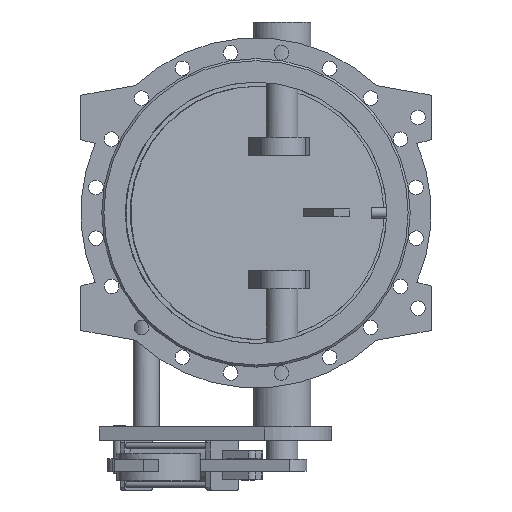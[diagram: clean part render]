
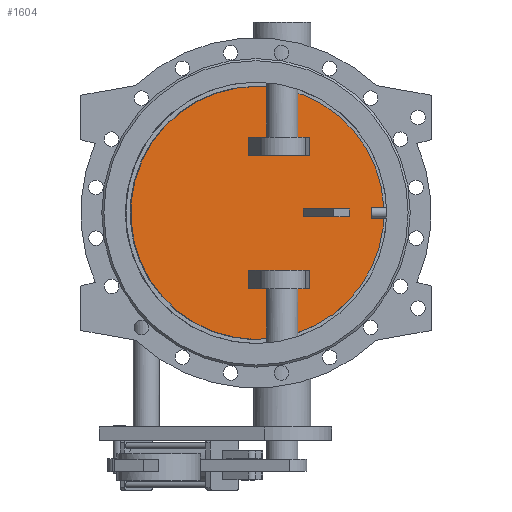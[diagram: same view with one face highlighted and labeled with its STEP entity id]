
A CAD part, front view. The second image highlights one B-rep face of the part: STEP entity #1604.
In plain terms, the highlighted planar face has unit normal (0.131, -0.991, 0).
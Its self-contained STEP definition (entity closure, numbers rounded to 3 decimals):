
#1604=ADVANCED_FACE('',(#3557,#3559,#3561,#3563),#3565,.T.);
#3557=FACE_BOUND('',#3558,.T.);
#3558=EDGE_LOOP('',(#4672));
#3559=FACE_BOUND('',#3560,.T.);
#3560=EDGE_LOOP('',(#4673,#4674,#4675,#4676));
#3561=FACE_BOUND('',#3562,.T.);
#3562=EDGE_LOOP('',(#4677,#4678,#4679,#4680));
#3563=FACE_BOUND('',#3564,.T.);
#3564=EDGE_LOOP('',(#4681,#4682,#4683,#4684));
#3565=PLANE('',#3566);
#3566=AXIS2_PLACEMENT_3D('',#3567,#3568,#3569);
#3567=CARTESIAN_POINT('',(-1.272,9.66,0.));
#3568=DIRECTION('',(0.131,-0.991,0.));
#3569=DIRECTION('',(0.,0.,-1.));
#4672=ORIENTED_EDGE('',*,*,#5169,.T.);
#4673=ORIENTED_EDGE('',*,*,#5188,.F.);
#4674=ORIENTED_EDGE('',*,*,#5189,.F.);
#4675=ORIENTED_EDGE('',*,*,#5190,.F.);
#4676=ORIENTED_EDGE('',*,*,#5191,.F.);
#4677=ORIENTED_EDGE('',*,*,#5192,.F.);
#4678=ORIENTED_EDGE('',*,*,#5193,.F.);
#4679=ORIENTED_EDGE('',*,*,#5194,.F.);
#4680=ORIENTED_EDGE('',*,*,#5195,.F.);
#4681=ORIENTED_EDGE('',*,*,#5196,.F.);
#4682=ORIENTED_EDGE('',*,*,#5197,.F.);
#4683=ORIENTED_EDGE('',*,*,#5198,.F.);
#4684=ORIENTED_EDGE('',*,*,#5199,.F.);
#5169=EDGE_CURVE('',#5903,#5903,#5904,.T.);
#5188=EDGE_CURVE('',#5941,#5942,#5943,.T.);
#5189=EDGE_CURVE('',#5944,#5941,#5945,.F.);
#5190=EDGE_CURVE('',#5946,#5944,#5947,.T.);
#5191=EDGE_CURVE('',#5942,#5946,#5948,.T.);
#5192=EDGE_CURVE('',#5949,#5950,#5951,.F.);
#5193=EDGE_CURVE('',#5952,#5949,#5953,.T.);
#5194=EDGE_CURVE('',#5954,#5952,#5955,.T.);
#5195=EDGE_CURVE('',#5950,#5954,#5956,.T.);
#5196=EDGE_CURVE('',#5957,#5958,#5959,.T.);
#5197=EDGE_CURVE('',#5960,#5957,#5961,.F.);
#5198=EDGE_CURVE('',#5962,#5960,#5963,.F.);
#5199=EDGE_CURVE('',#5958,#5962,#5964,.F.);
#5903=VERTEX_POINT('',#8976);
#5904=B_SPLINE_CURVE_WITH_KNOTS('',3,
(#8977,#8978,#8979,#8980,#8981,#8982,#8983,#8984,#8985,#8986,#8987,#8988,#8989,#8990,
#8991,#8992,#8993,#8994,#8995,#8996,#8997,#8998,#8999,#9000,#9001,#9002,#9003,#9004,
#9005,#9006,#9007,#9008,#9009,#9010,#9011,#9012,#9013,#9014,#9015,#9016,#9017,#9018,
#9019,#9020,#9021,#9022,#9023,#9024,#9025,#9026,#9027),
.UNSPECIFIED.,.T.,.F.,
(4,1,1,1,1,1,1,1,1,1,1,1,1,1,1,1,1,1,1,1,1,1,1,1,1,1,1,1,1,1,1,1,1,1,1,1,1,1,1,1,
1,1,1,1,1,1,1,1,4),
(0.,0.021,0.042,0.063,0.084,
0.105,0.126,0.147,0.168,0.189,
0.211,0.232,0.253,0.274,0.295,
0.316,0.337,0.358,0.379,0.4,
0.421,0.442,0.463,0.484,0.505,
0.526,0.548,0.569,0.59,0.611,
0.632,0.653,0.674,0.695,0.716,
0.737,0.758,0.779,0.8,0.821,
0.843,0.864,0.885,0.906,0.927,
0.948,0.969,0.986,1.),
.UNSPECIFIED.);
#5941=VERTEX_POINT('',#9587);
#5942=VERTEX_POINT('',#9588);
#5943=LINE('',#9589,#9590);
#5944=VERTEX_POINT('',#9592);
#5945=LINE('',#9593,#9594);
#5946=VERTEX_POINT('',#9596);
#5947=LINE('',#9597,#9598);
#5948=LINE('',#9600,#9601);
#5949=VERTEX_POINT('',#9603);
#5950=VERTEX_POINT('',#9604);
#5951=LINE('',#9605,#9606);
#5952=VERTEX_POINT('',#9608);
#5953=LINE('',#9609,#9610);
#5954=VERTEX_POINT('',#9612);
#5955=LINE('',#9613,#9614);
#5956=LINE('',#9616,#9617);
#5957=VERTEX_POINT('',#9619);
#5958=VERTEX_POINT('',#9620);
#5959=LINE('',#9621,#9622);
#5960=VERTEX_POINT('',#9624);
#5961=LINE('',#9625,#9626);
#5962=VERTEX_POINT('',#9628);
#5963=LINE('',#9629,#9630);
#5964=LINE('',#9632,#9633);
#8976=CARTESIAN_POINT('',(2.611,10.171,242.));
#8977=CARTESIAN_POINT('',(2.611,10.171,242.));
#8978=CARTESIAN_POINT('',(-8.021,8.771,242.));
#8979=CARTESIAN_POINT('',(-29.311,5.969,240.596));
#8980=CARTESIAN_POINT('',(-60.73,1.832,234.3));
#8981=CARTESIAN_POINT('',(-91.089,-2.165,223.903));
#8982=CARTESIAN_POINT('',(-119.83,-5.949,209.58));
#8983=CARTESIAN_POINT('',(-146.424,-9.45,191.594));
#8984=CARTESIAN_POINT('',(-170.413,-12.608,170.255));
#8985=CARTESIAN_POINT('',(-191.375,-15.368,145.938));
#8986=CARTESIAN_POINT('',(-208.943,-17.681,119.068));
#8987=CARTESIAN_POINT('',(-222.811,-19.506,90.115));
#8988=CARTESIAN_POINT('',(-232.736,-20.813,59.585));
#8989=CARTESIAN_POINT('',(-238.543,-21.577,28.012));
#8990=CARTESIAN_POINT('',(-240.132,-21.787,-4.05));
#8991=CARTESIAN_POINT('',(-237.474,-21.437,-36.041));
#8992=CARTESIAN_POINT('',(-230.616,-20.534,-67.401));
#8993=CARTESIAN_POINT('',(-219.679,-19.094,-97.581));
#8994=CARTESIAN_POINT('',(-204.855,-17.142,-126.053));
#8995=CARTESIAN_POINT('',(-186.401,-14.713,-152.321));
#8996=CARTESIAN_POINT('',(-164.642,-11.848,-175.924));
#8997=CARTESIAN_POINT('',(-139.958,-8.598,-196.45));
#8998=CARTESIAN_POINT('',(-112.779,-5.02,-213.541));
#8999=CARTESIAN_POINT('',(-83.582,-1.176,-226.897));
#9000=CARTESIAN_POINT('',(-52.876,2.866,-236.284));
#9001=CARTESIAN_POINT('',(-21.199,7.037,-241.538));
#9002=CARTESIAN_POINT('',(10.895,11.262,-242.566));
#9003=CARTESIAN_POINT('',(42.844,15.468,-239.352));
#9004=CARTESIAN_POINT('',(74.089,19.581,-231.95));
#9005=CARTESIAN_POINT('',(104.084,23.53,-220.49));
#9006=CARTESIAN_POINT('',(132.303,27.245,-205.174));
#9007=CARTESIAN_POINT('',(158.253,30.662,-186.269));
#9008=CARTESIAN_POINT('',(181.481,33.72,-164.105));
#9009=CARTESIAN_POINT('',(201.58,36.366,-139.07));
#9010=CARTESIAN_POINT('',(218.198,38.554,-111.603));
#9011=CARTESIAN_POINT('',(231.046,40.245,-82.182));
#9012=CARTESIAN_POINT('',(239.897,41.41,-51.324));
#9013=CARTESIAN_POINT('',(244.597,42.029,-19.568));
#9014=CARTESIAN_POINT('',(245.063,42.091,12.53));
#9015=CARTESIAN_POINT('',(241.288,41.594,44.409));
#9016=CARTESIAN_POINT('',(233.338,40.547,75.509));
#9017=CARTESIAN_POINT('',(221.353,38.969,105.289));
#9018=CARTESIAN_POINT('',(205.542,36.888,133.226));
#9019=CARTESIAN_POINT('',(186.182,34.339,158.832));
#9020=CARTESIAN_POINT('',(163.61,31.367,181.661));
#9021=CARTESIAN_POINT('',(138.229,28.026,201.308));
#9022=CARTESIAN_POINT('',(110.512,24.377,217.415));
#9023=CARTESIAN_POINT('',(80.861,20.473,229.756));
#9024=CARTESIAN_POINT('',(51.618,16.623,237.597));
#9025=CARTESIAN_POINT('',(25.327,13.162,241.321));
#9026=CARTESIAN_POINT('',(9.553,11.085,242.));
#9027=CARTESIAN_POINT('',(2.611,10.171,242.));
#9587=CARTESIAN_POINT('',(164.358,31.466,-7.5));
#9588=CARTESIAN_POINT('',(164.358,31.466,7.5));
#9589=CARTESIAN_POINT('',(164.358,31.466,-7.5));
#9590=VECTOR('',#9591,1.);
#9591=DIRECTION('',(0.,0.,1.));
#9592=CARTESIAN_POINT('',(90.,21.676,-7.5));
#9593=CARTESIAN_POINT('',(164.358,31.466,-7.5));
#9594=VECTOR('',#9595,1.);
#9595=DIRECTION('',(-0.991,-0.131,0.));
#9596=CARTESIAN_POINT('',(90.,21.676,7.5));
#9597=CARTESIAN_POINT('',(90.,21.676,7.5));
#9598=VECTOR('',#9599,1.);
#9599=DIRECTION('',(0.,0.,-1.));
#9600=CARTESIAN_POINT('',(164.358,31.466,7.5));
#9601=VECTOR('',#9602,1.);
#9602=DIRECTION('',(-0.991,-0.131,0.));
#9603=CARTESIAN_POINT('',(-14.418,7.929,-145.));
#9604=CARTESIAN_POINT('',(102.407,23.31,-145.));
#9605=CARTESIAN_POINT('',(102.407,23.31,-145.));
#9606=VECTOR('',#9607,1.);
#9607=DIRECTION('',(-0.991,-0.131,0.));
#9608=CARTESIAN_POINT('',(-14.418,7.929,-110.));
#9609=CARTESIAN_POINT('',(-14.418,7.929,-110.));
#9610=VECTOR('',#9611,1.);
#9611=DIRECTION('',(0.,0.,-1.));
#9612=CARTESIAN_POINT('',(102.407,23.31,-110.));
#9613=CARTESIAN_POINT('',(102.407,23.31,-110.));
#9614=VECTOR('',#9615,1.);
#9615=DIRECTION('',(-0.991,-0.131,0.));
#9616=CARTESIAN_POINT('',(102.407,23.31,-145.));
#9617=VECTOR('',#9618,1.);
#9618=DIRECTION('',(0.,0.,1.));
#9619=CARTESIAN_POINT('',(102.407,23.31,145.));
#9620=CARTESIAN_POINT('',(-14.418,7.929,145.));
#9621=CARTESIAN_POINT('',(102.407,23.31,145.));
#9622=VECTOR('',#9623,1.);
#9623=DIRECTION('',(-0.991,-0.131,0.));
#9624=CARTESIAN_POINT('',(102.407,23.31,110.));
#9625=CARTESIAN_POINT('',(102.407,23.31,145.));
#9626=VECTOR('',#9627,1.);
#9627=DIRECTION('',(0.,0.,-1.));
#9628=CARTESIAN_POINT('',(-14.418,7.929,110.));
#9629=CARTESIAN_POINT('',(102.407,23.31,110.));
#9630=VECTOR('',#9631,1.);
#9631=DIRECTION('',(-0.991,-0.131,0.));
#9632=CARTESIAN_POINT('',(-14.418,7.929,110.));
#9633=VECTOR('',#9634,1.);
#9634=DIRECTION('',(0.,0.,1.));
